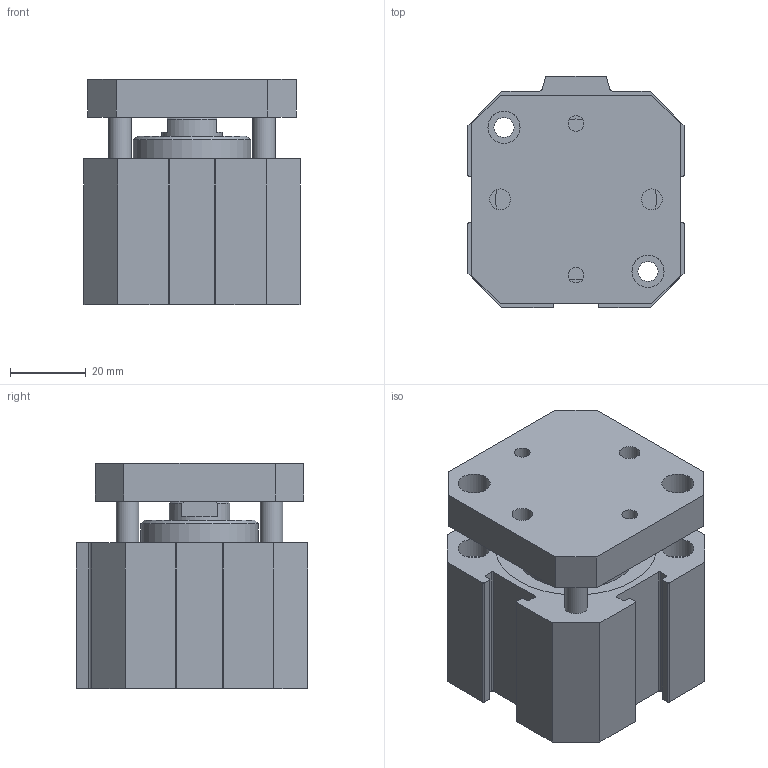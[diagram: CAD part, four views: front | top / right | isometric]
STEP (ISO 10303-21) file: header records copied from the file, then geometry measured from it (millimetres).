
FILE_DESCRIPTION(/* description */ ('TUBO PROFILATO COMPATTI Ø40'),/* implementation_level */ '2;1');
FILE_NAME(/* name */ 'I:\Area Tecnica\Disegni\VARIE-3D\Componenti\1500\Ø40\15##_40_####_#\1501_40_0005_AR.stp',/* time_stamp */ '2016-08-24T11:51:00+02:00',/* author */ ('Maniean1'),/* organization */ ('Pneumax S.p.A.'),/* preprocessor_version */ 'ST-DEVELOPER v15.2',/* originating_system */ 'Autodesk Inventor 2014',/* authorisation */ '');
FILE_SCHEMA (('AUTOMOTIVE_DESIGN { 1 0 10303 214 3 1 1 }'));
Length unit declared in the file: millimetre
Products named in the file (3): C_1501_40_0005_AR; S_1501_40_0005_AR; 1501_40_0005_AR
Bounding box: 57 x 61 x 59.5 mm (x, y, z)
Volume: 133061.3 mm3; surface area: 41906.4 mm2
Topology: 2 solids, 2 shells, 137 faces, 337 edges, 226 vertices
Faces by surface type: plane 74, cylinder 58, cone 5
Full cylindrical faces by diameter (mm): 4.134 x2, 5.3 x4, 5.5 x2, 6 x4, 8.5 x8, 8.566 x2, 9 x2, 16 x2, 31 x2, 40 x2, 42.5 x2
Entity records: 3998 total; most frequent: DIRECTION 698, CARTESIAN_POINT 662, ORIENTED_EDGE 588, EDGE_CURVE 294, AXIS2_PLACEMENT_3D 266, VERTEX_POINT 218, EDGE_LOOP 214, LINE 166
